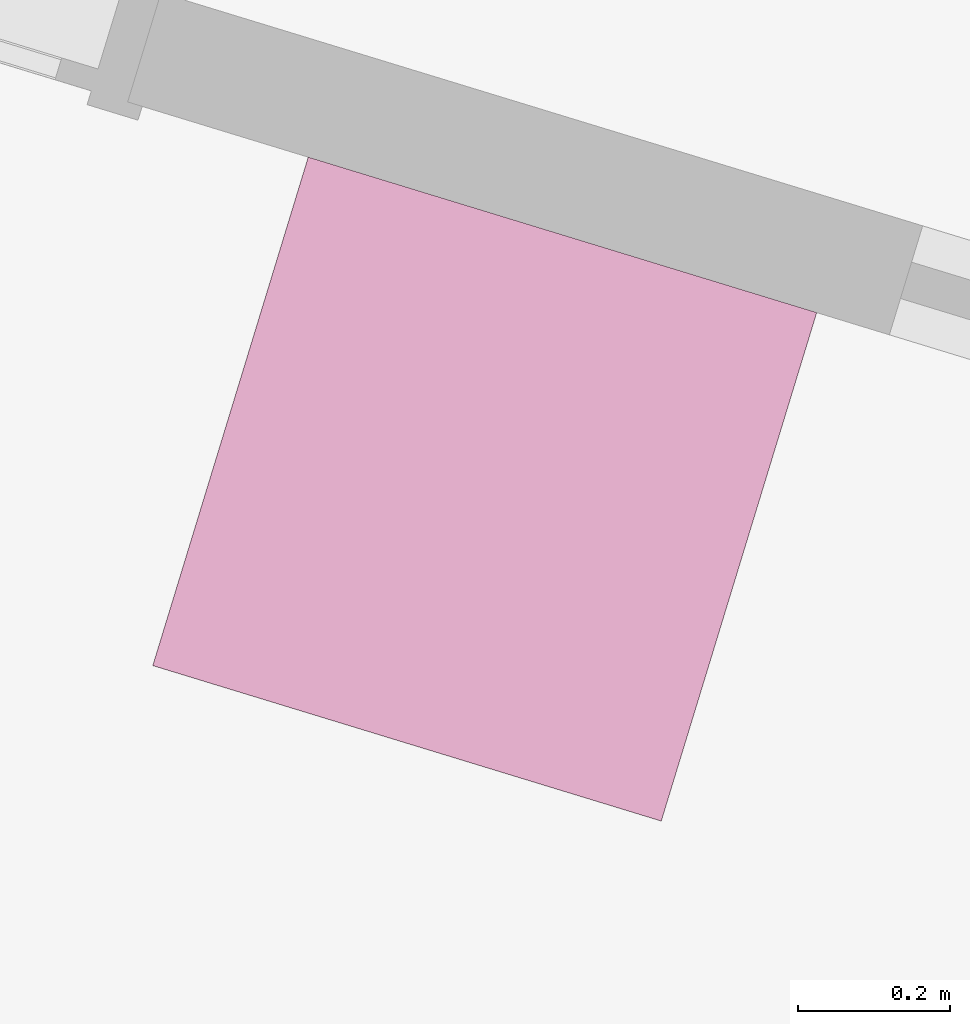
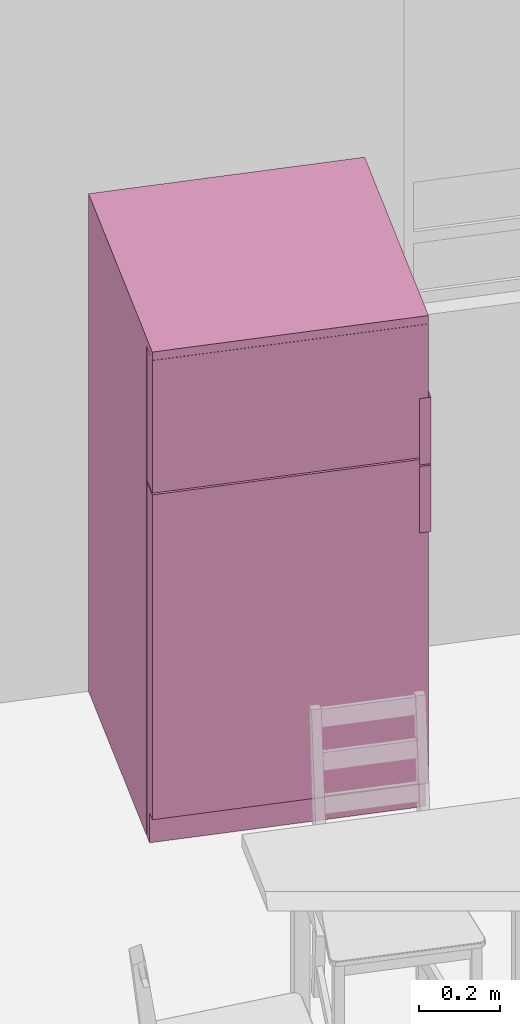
# One storey, part 13 of 13: 1 furnishing.
"""IFC2X3 building model written with IfcOpenShell, lengths in millimetres."""

from ifc_helpers import new_model, entity, si_unit, converted_unit, derived_unit, money_unit, direction, frame, origin_with_axes, place, context, subcontext, project, spatial, open_shell, faceted_brep, surface_model, type_object, element, save


model = new_model("IFC2X3")

# Units and contexts
model_context = context("Model", 3, precision=0.01, world=origin_with_axes(), true_north=direction((0.0, 1.0)))
body_context = subcontext(model_context, "Body", "Model", "MODEL_VIEW")
ifc_project = project(units=[si_unit("LENGTHUNIT", "METRE", prefix="MILLI"), si_unit("AREAUNIT", "SQUARE_METRE"), si_unit("VOLUMEUNIT", "CUBIC_METRE"), converted_unit("PLANEANGLEUNIT", "DEGREE", entity("IfcPlaneAngleMeasure", 0.0174532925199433), si_unit("PLANEANGLEUNIT", "RADIAN"), dimensions=[0, 0, 0, 0, 0, 0, 0]), money_unit("USD"), converted_unit("TIMEUNIT", "Year", entity("IfcTimeMeasure", 31557600.0), si_unit("TIMEUNIT", "SECOND"), dimensions=[0, 0, 1, 0, 0, 0, 0]), si_unit("MASSUNIT", "GRAM", prefix="KILO"), si_unit("THERMODYNAMICTEMPERATUREUNIT", "DEGREE_CELSIUS"), si_unit("LUMINOUSINTENSITYUNIT", "LUMEN"), si_unit("ENERGYUNIT", "JOULE", prefix="MEGA"), derived_unit("THERMALCONDUCTANCEUNIT", [(si_unit("POWERUNIT", "WATT"), 1), (si_unit("LENGTHUNIT", "METRE"), -1), (si_unit("THERMODYNAMICTEMPERATUREUNIT", "KELVIN"), -1)]), derived_unit("SPECIFICHEATCAPACITYUNIT", [(si_unit("ENERGYUNIT", "JOULE"), 1), (si_unit("MASSUNIT", "GRAM", prefix="KILO"), -1), (si_unit("THERMODYNAMICTEMPERATUREUNIT", "KELVIN"), -1)]), derived_unit("MASSDENSITYUNIT", [(si_unit("MASSUNIT", "GRAM", prefix="KILO"), 1), (si_unit("VOLUMEUNIT", "CUBIC_METRE"), -1)])], contexts=[model_context])

# Site, building, storey, space
site_placement = place(None, frame((0.0, 0.0, 0.0), z_axis=(0.0, 0.0, 1.0), x_axis=(0.9563047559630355, -0.2923717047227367, 0.0)))
site = spatial("IfcSite", under=ifc_project, at=site_placement, Name="Site", CompositionType="ELEMENT")
building_placement = place(site_placement, origin_with_axes())
building = spatial("IfcBuilding", under=site, at=building_placement, Name="Casa Térrea Isolada", CompositionType="ELEMENT")
storey_placement = place(building_placement, origin_with_axes())
storey = spatial("IfcBuildingStorey", under=building, at=storey_placement, Name="Terreo", CompositionType="ELEMENT", Elevation=0.0)
space_placement = place(storey_placement, frame((150.0015215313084, 3299.997772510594, 0.0), z_axis=(0.0, 0.0, 1.0), x_axis=(1.0, 0.0, 0.0)))
space = spatial("IfcSpace", under=storey, at=space_placement, Name="01", CompositionType="ELEMENT", InteriorOrExteriorSpace="INTERNAL")

# Furnishing
furniture_type = type_object("IfcFurnitureType", Name="Refrigerator 27", AssemblyPlace="NOTDEFINED")
furnishing_placement = place(space_placement, frame((2580.001325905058, 2299.999056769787, 0.0), z_axis=(0.0, 0.0, 1.0), x_axis=(1.0, 0.0, 0.0)))
element("IfcFurnishingElement", 1, at=furnishing_placement, inside=space, type_object=furniture_type, Name="MB06", context=body_context, shape_type="SurfaceModel", body=[
    faceted_brep([(0.0, 0.0, 1475.0), (700.0, 0.0, 1475.0), (700.0, 0.0, 1500.0), (0.0, 0.0, 1500.0), (0.0, 700.0, 1475.0), (700.0, 700.0, 1475.0), (700.0, 700.0, 1500.0), (0.0, 700.0, 1500.0)], [[[0, 1, 2, 3]], [[0, 4, 5, 1]], [[1, 5, 6, 2]], [[3, 2, 6, 7]], [[4, 0, 3, 7]], [[5, 4, 7, 6]]]),
    faceted_brep([(0.0, 65.0, 0.0), (700.0, 65.0, 0.0), (700.0, 65.0, 1475.0), (0.0, 65.0, 1475.0), (0.0, 700.0, 0.0), (700.0, 700.0, 0.0), (700.0, 700.0, 1475.0), (0.0, 700.0, 1475.0)], [[[0, 1, 2, 3]], [[0, 4, 5, 1]], [[1, 5, 6, 2]], [[3, 2, 6, 7]], [[4, 0, 3, 7]], [[5, 4, 7, 6]]]),
    faceted_brep([(0.0, 30.0, 0.0), (700.0, 30.0, 0.0), (700.0, 30.0, 90.0), (0.0, 30.0, 90.0), (0.0, 60.0, 0.0), (700.0, 60.0, 0.0), (700.0, 60.0, 90.0), (0.0, 60.0, 90.0)], [[[0, 1, 2, 3]], [[0, 4, 5, 1]], [[1, 5, 6, 2]], [[3, 2, 6, 7]], [[4, 0, 3, 7]], [[5, 4, 7, 6]]]),
    faceted_brep([(0.0, 60.0, 90.0), (700.0, 60.0, 90.0), (700.0, 0.0, 90.0), (0.0, 0.0, 90.0), (0.0, 60.00000000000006, 1069.5), (700.0, 60.00000000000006, 1069.5), (700.0, 0.0, 1069.5), (0.0, 0.0, 1069.5)], [[[0, 1, 2, 3]], [[0, 4, 5, 1]], [[1, 5, 6, 2]], [[3, 2, 6, 7]], [[4, 0, 3, 7]], [[5, 4, 7, 6]]]),
    faceted_brep([(0.0, 60.0, 1074.5), (700.0, 60.0, 1074.5), (700.0, 0.0, 1074.5), (0.0, 0.0, 1074.5), (0.0, 60.00000000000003, 1474.5), (700.0, 60.00000000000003, 1474.5), (700.0, 0.0, 1474.5), (0.0, 0.0, 1474.5)], [[[0, 1, 2, 3]], [[0, 4, 5, 1]], [[1, 5, 6, 2]], [[3, 2, 6, 7]], [[4, 0, 3, 7]], [[5, 4, 7, 6]]]),
    surface_model("IfcShellBasedSurfaceModel", [(700.0, -30.0, 869.5000000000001), (700.0, -30.0, 1069.5), (700.0, 0.0, 1069.5), (700.0, 0.0, 869.5000000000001)], [open_shell([[[0, 1, 2, 3]]])]),
    surface_model("IfcShellBasedSurfaceModel", [(700.0, -30.0, 869.5000000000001), (700.0, -30.0, 1069.5), (669.9999999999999, -30.0, 1069.5), (669.9999999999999, -30.0, 869.5000000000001)], [open_shell([[[0, 1, 2, 3]]])]),
    surface_model("IfcShellBasedSurfaceModel", [(700.0, -30.0, 1074.5), (700.0, -30.0, 1274.5), (700.0, 0.0, 1274.5), (700.0, 0.0, 1074.5)], [open_shell([[[0, 1, 2, 3]]])]),
    surface_model("IfcShellBasedSurfaceModel", [(700.0, -30.0, 1074.5), (700.0, -30.0, 1274.5), (669.9999999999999, -30.0, 1274.5), (669.9999999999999, -30.0, 1074.5)], [open_shell([[[0, 1, 2, 3]]])]),
])

save(model, "model.ifc")
